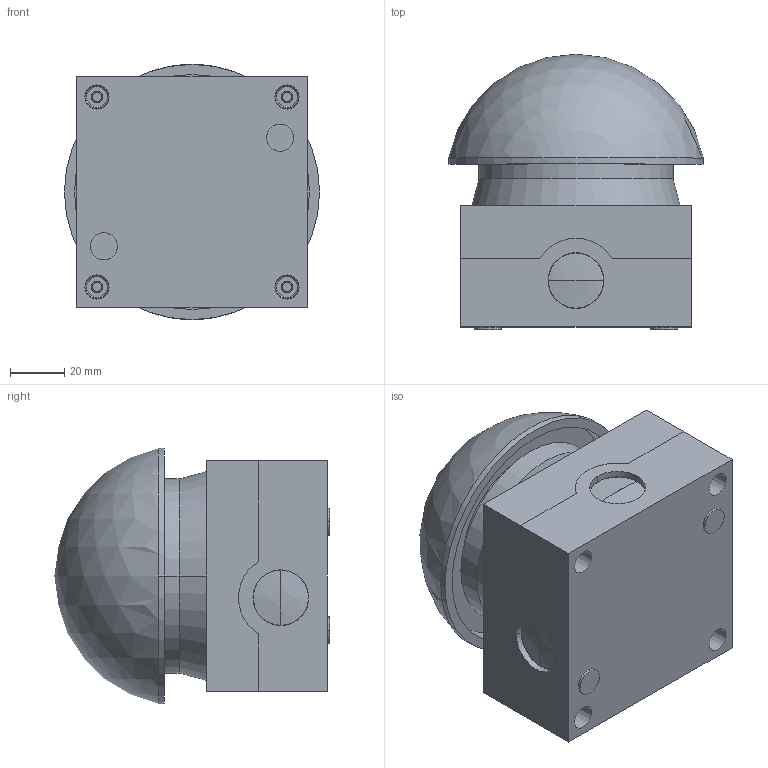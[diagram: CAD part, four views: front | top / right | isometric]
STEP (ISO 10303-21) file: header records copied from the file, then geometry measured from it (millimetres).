
FILE_DESCRIPTION( ( '' ), '1' );
FILE_NAME( '//expscmdclustefs.cadenas.external/client_exchange/iodir/jobs/output/wkb45454613_no0/STEP/229749_2_03.stp', '2012-05-30T16:00:42', ( '' ), ( '' ), ' ', ' ', ' ' );
FILE_SCHEMA( ( 'CONFIG_CONTROL_DESIGN' ) );
Length unit declared in the file: millimetre
Products named in the file (6): 1; 2; 3; 4; 5; 6
Bounding box: 94 x 101.45 x 94 mm (x, y, z)
Volume: 345065.3 mm3; surface area: 83251.1 mm2
Topology: 6 solids, 6 shells, 285 faces, 690 edges, 437 vertices
Faces by surface type: plane 113, cylinder 87, cone 74, sphere 11
Entity records: 8630 total; most frequent: DIRECTION 1570, CARTESIAN_POINT 1414, ORIENTED_EDGE 1372, EDGE_CURVE 686, AXIS2_PLACEMENT_3D 593, VERTEX_POINT 437, LINE 384, VECTOR 384
